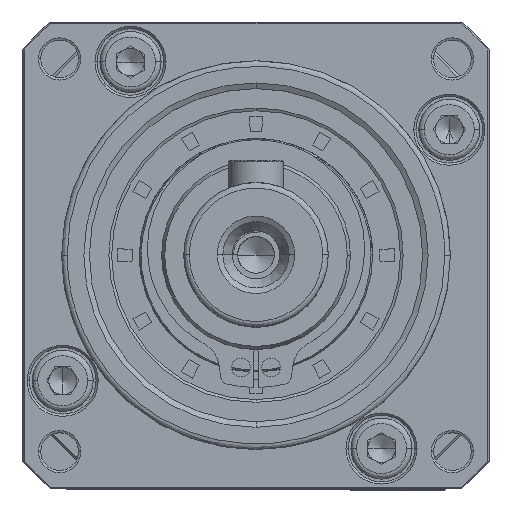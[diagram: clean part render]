
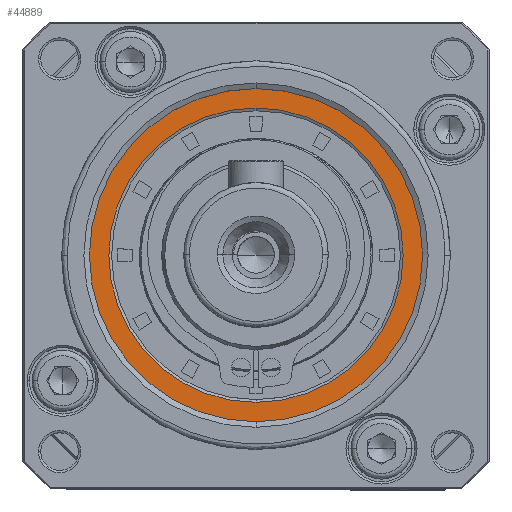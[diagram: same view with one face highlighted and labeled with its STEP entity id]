
A CAD part, top view. The second image highlights one B-rep face of the part: STEP entity #44889.
In plain terms, the highlighted planar face has unit normal (0, 0, 1).
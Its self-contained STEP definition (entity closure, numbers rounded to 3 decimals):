
#1053 = CARTESIAN_POINT ( 'NONE',  ( -15.08, 1.528, 94.412 ) ) ;
#1807 = VERTEX_POINT ( 'NONE', #35190 ) ;
#2884 = CARTESIAN_POINT ( 'NONE',  ( -15.08, 1.528, 94.412 ) ) ;
#4425 = EDGE_CURVE ( 'NONE', #1807, #70967, #93326, .T. ) ;
#6847 = CARTESIAN_POINT ( 'NONE',  ( -15.08, -11.722, 94.412 ) ) ;
#11307 = EDGE_CURVE ( 'NONE', #115607, #119480, #73300, .T. ) ;
#13964 = FACE_BOUND ( 'NONE', #31824, .T. ) ;
#17358 = AXIS2_PLACEMENT_3D ( 'NONE', #33644, #87376, #52249 ) ;
#18439 = AXIS2_PLACEMENT_3D ( 'NONE', #39490, #103971, #85543 ) ;
#30862 = CIRCLE ( 'NONE', #102925, 13.25 ) ;
#31824 = EDGE_LOOP ( 'NONE', ( #50549, #44686 ) ) ;
#33644 = CARTESIAN_POINT ( 'NONE',  ( -15.08, 1.528, 94.412 ) ) ;
#35190 = CARTESIAN_POINT ( 'NONE',  ( -0.08, 1.528, 94.412 ) ) ;
#39490 = CARTESIAN_POINT ( 'NONE',  ( -15.08, 1.528, 94.412 ) ) ;
#42392 = DIRECTION ( 'NONE',  ( 0., 0., -1. ) ) ;
#42514 = EDGE_LOOP ( 'NONE', ( #56112, #61916 ) ) ;
#44686 = ORIENTED_EDGE ( 'NONE', *, *, #11307, .T. ) ;
#44889 = ADVANCED_FACE ( 'NONE', ( #81749, #13964 ), #113484, .T. ) ;
#50549 = ORIENTED_EDGE ( 'NONE', *, *, #70903, .T. ) ;
#52249 = DIRECTION ( 'NONE',  ( 1., 0., 0. ) ) ;
#56112 = ORIENTED_EDGE ( 'NONE', *, *, #4425, .T. ) ;
#61916 = ORIENTED_EDGE ( 'NONE', *, *, #76811, .T. ) ;
#67302 = DIRECTION ( 'NONE',  ( 0., 0., -1. ) ) ;
#68101 = DIRECTION ( 'NONE',  ( 0., -1., 0. ) ) ;
#70903 = EDGE_CURVE ( 'NONE', #119480, #115607, #30862, .T. ) ;
#70967 = VERTEX_POINT ( 'NONE', #81187 ) ;
#73300 = CIRCLE ( 'NONE', #94238, 13.25 ) ;
#73597 = DIRECTION ( 'NONE',  ( 0., 0., 1. ) ) ;
#76811 = EDGE_CURVE ( 'NONE', #70967, #1807, #97714, .T. ) ;
#81187 = CARTESIAN_POINT ( 'NONE',  ( -30.08, 1.528, 94.412 ) ) ;
#81749 = FACE_OUTER_BOUND ( 'NONE', #42514, .T. ) ;
#84054 = DIRECTION ( 'NONE',  ( 1., 0., 0. ) ) ;
#85543 = DIRECTION ( 'NONE',  ( 1., 0., 0. ) ) ;
#87376 = DIRECTION ( 'NONE',  ( 0., 0., 1. ) ) ;
#88015 = DIRECTION ( 'NONE',  ( 0., -1., 0. ) ) ;
#89524 = AXIS2_PLACEMENT_3D ( 'NONE', #1053, #73597, #84054 ) ;
#93326 = CIRCLE ( 'NONE', #89524, 15. ) ;
#94238 = AXIS2_PLACEMENT_3D ( 'NONE', #2884, #67302, #68101 ) ;
#97714 = CIRCLE ( 'NONE', #18439, 15. ) ;
#97972 = CARTESIAN_POINT ( 'NONE',  ( -15.08, 14.778, 94.412 ) ) ;
#102925 = AXIS2_PLACEMENT_3D ( 'NONE', #107608, #42392, #88015 ) ;
#103971 = DIRECTION ( 'NONE',  ( 0., 0., 1. ) ) ;
#107608 = CARTESIAN_POINT ( 'NONE',  ( -15.08, 1.528, 94.412 ) ) ;
#113484 = PLANE ( 'NONE',  #17358 ) ;
#115607 = VERTEX_POINT ( 'NONE', #97972 ) ;
#119480 = VERTEX_POINT ( 'NONE', #6847 ) ;
